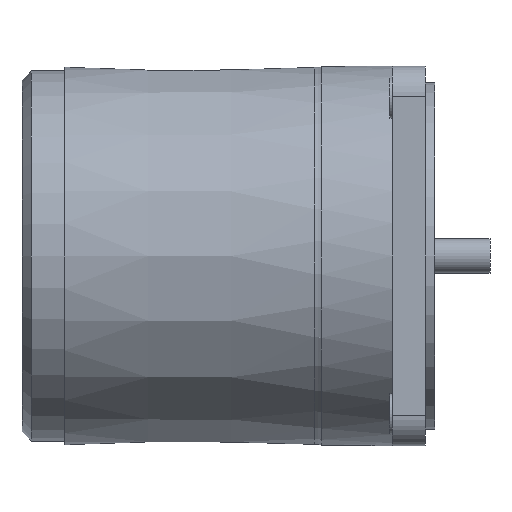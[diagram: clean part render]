
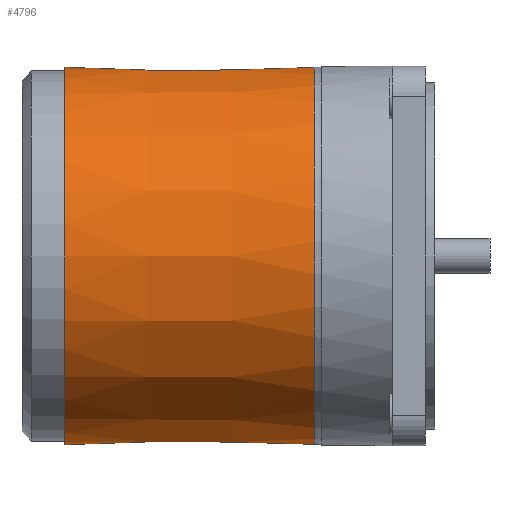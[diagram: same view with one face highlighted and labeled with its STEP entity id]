
A CAD part, front view. The second image highlights one B-rep face of the part: STEP entity #4796.
In plain terms, the highlighted conical face has half-angle 0.073 degrees and reference radius 39.784 mm.
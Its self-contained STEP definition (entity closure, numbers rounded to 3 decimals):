
#4576=CARTESIAN_POINT('',(9.,39.75,0.0));
#4577=VERTEX_POINT('',#4576);
#4578=CARTESIAN_POINT('',(9.,0.,0.0));
#4579=DIRECTION('',(1.0,0.0,0.0));
#4580=DIRECTION('',(0.0,1.0,0.0));
#4581=AXIS2_PLACEMENT_3D('',#4578,#4579,#4580);
#4582=CIRCLE('',#4581,39.75);
#4583=EDGE_CURVE('',#4577,#4577,#4582,.T.);
#4709=CARTESIAN_POINT('',(35.288,0.,0.0));
#4710=DIRECTION('',(1.0,0.,0.0));
#4711=DIRECTION('',(0.0,1.0,0.0));
#4712=AXIS2_PLACEMENT_3D('',#4709,#4710,#4711);
#4713=CONICAL_SURFACE('',#4712,39.784,0.073);
#4714=CARTESIAN_POINT('',(22.001,28.641,-27.587));
#4715=VERTEX_POINT('',#4714);
#4716=CARTESIAN_POINT('',(23.636,28.041,-28.2));
#4717=VERTEX_POINT('',#4716);
#4718=CARTESIAN_POINT('',(22.001,28.641,-27.587));
#4719=CARTESIAN_POINT('',(22.002,28.64,-27.589));
#4720=CARTESIAN_POINT('',(22.003,28.638,-27.59));
#4721=CARTESIAN_POINT('',(22.044,28.581,-27.65));
#4722=CARTESIAN_POINT('',(22.115,28.498,-27.736));
#4723=CARTESIAN_POINT('',(22.343,28.338,-27.9));
#4724=CARTESIAN_POINT('',(22.457,28.278,-27.96));
#4725=CARTESIAN_POINT('',(22.724,28.17,-28.07));
#4726=CARTESIAN_POINT('',(22.88,28.126,-28.114));
#4727=CARTESIAN_POINT('',(23.234,28.058,-28.182));
#4728=CARTESIAN_POINT('',(23.435,28.041,-28.2));
#4729=CARTESIAN_POINT('',(23.636,28.041,-28.2));
#4730=B_SPLINE_CURVE_WITH_KNOTS('',3,(#4718,#4719,#4720,#4721,#4722,#4723,#4724,#4725,#4726,#4727,#4728,#4729),.UNSPECIFIED.,.F.,.U.,(4,2,2,2,2,4),(-0.001,0.0,0.027,0.048,0.073,0.103),.UNSPECIFIED.);
#4731=EDGE_CURVE('',#4715,#4717,#4730,.T.);
#4732=ORIENTED_EDGE('',*,*,#4731,.T.);
#4733=CARTESIAN_POINT('',(61.576,28.11,-28.2));
#4734=VERTEX_POINT('',#4733);
#4735=CARTESIAN_POINT('',(23.636,28.041,-28.2));
#4736=CARTESIAN_POINT('',(42.583,28.076,-28.2));
#4737=CARTESIAN_POINT('',(61.576,28.11,-28.2));
#4745=(BOUNDED_CURVE()B_SPLINE_CURVE(2,(#4735,#4736,#4737),.UNSPECIFIED.,.F.,.U.)B_SPLINE_CURVE_WITH_KNOTS((3,3),(0.114,3.908),.UNSPECIFIED.)CURVE()GEOMETRIC_REPRESENTATION_ITEM()RATIONAL_B_SPLINE_CURVE((1.,1.,1.0))REPRESENTATION_ITEM(''));
#4746=EDGE_CURVE('',#4717,#4734,#4745,.T.);
#4747=ORIENTED_EDGE('',*,*,#4746,.T.);
#4748=CARTESIAN_POINT('',(61.576,27.541,28.756));
#4749=VERTEX_POINT('',#4748);
#4750=CARTESIAN_POINT('',(61.576,0.,0.0));
#4751=DIRECTION('',(1.0,0.0,0.0));
#4752=DIRECTION('',(0.0,1.0,0.0));
#4753=AXIS2_PLACEMENT_3D('',#4750,#4751,#4752);
#4754=CIRCLE('',#4753,39.817);
#4755=EDGE_CURVE('',#4749,#4734,#4754,.T.);
#4756=ORIENTED_EDGE('',*,*,#4755,.F.);
#4757=CARTESIAN_POINT('',(61.576,27.542,28.756));
#4758=VERTEX_POINT('',#4757);
#4759=CARTESIAN_POINT('',(61.576,0.,0.0));
#4760=DIRECTION('',(1.0,0.0,0.0));
#4761=DIRECTION('',(0.0,1.0,0.0));
#4762=AXIS2_PLACEMENT_3D('',#4759,#4760,#4761);
#4763=CIRCLE('',#4762,39.817);
#4764=EDGE_CURVE('',#4758,#4749,#4763,.T.);
#4765=ORIENTED_EDGE('',*,*,#4764,.F.);
#4766=CARTESIAN_POINT('',(22.5,27.471,28.754));
#4767=VERTEX_POINT('',#4766);
#4768=CARTESIAN_POINT('',(22.5,27.471,28.754));
#4769=CARTESIAN_POINT('',(35.525,27.495,28.754));
#4770=CARTESIAN_POINT('',(48.55,27.518,28.755));
#4771=CARTESIAN_POINT('',(61.576,27.542,28.756));
#4772=B_SPLINE_CURVE_WITH_KNOTS('',3,(#4768,#4769,#4770,#4771),.UNSPECIFIED.,.F.,.U.,(4,4),(-5.75,-1.842),.UNSPECIFIED.);
#4773=EDGE_CURVE('',#4767,#4758,#4772,.T.);
#4774=ORIENTED_EDGE('',*,*,#4773,.F.);
#4775=CARTESIAN_POINT('',(22.001,27.47,28.754));
#4776=VERTEX_POINT('',#4775);
#4777=CARTESIAN_POINT('',(22.5,27.471,28.754));
#4778=CARTESIAN_POINT('',(22.334,27.471,28.754));
#4779=CARTESIAN_POINT('',(22.167,27.47,28.754));
#4780=CARTESIAN_POINT('',(22.001,27.47,28.754));
#4781=B_SPLINE_CURVE_WITH_KNOTS('',3,(#4777,#4778,#4779,#4780),.UNSPECIFIED.,.F.,.U.,(4,4),(5.75,5.8),.UNSPECIFIED.);
#4782=EDGE_CURVE('',#4767,#4776,#4781,.T.);
#4783=ORIENTED_EDGE('',*,*,#4782,.T.);
#4784=CARTESIAN_POINT('',(22.001,0.,0.));
#4785=DIRECTION('',(1.,0.,0.));
#4786=DIRECTION('',(0.,1.,0.01));
#4787=AXIS2_PLACEMENT_3D('',#4784,#4785,#4786);
#4788=CIRCLE('',#4787,39.767);
#4789=EDGE_CURVE('',#4715,#4776,#4788,.T.);
#4790=ORIENTED_EDGE('',*,*,#4789,.F.);
#4791=EDGE_LOOP('',(#4732,#4747,#4756,#4765,#4774,#4783,#4790));
#4792=FACE_OUTER_BOUND('',#4791,.T.);
#4793=ORIENTED_EDGE('',*,*,#4583,.T.);
#4794=EDGE_LOOP('',(#4793));
#4795=FACE_BOUND('',#4794,.T.);
#4796=ADVANCED_FACE('',(#4792,#4795),#4713,.T.);
